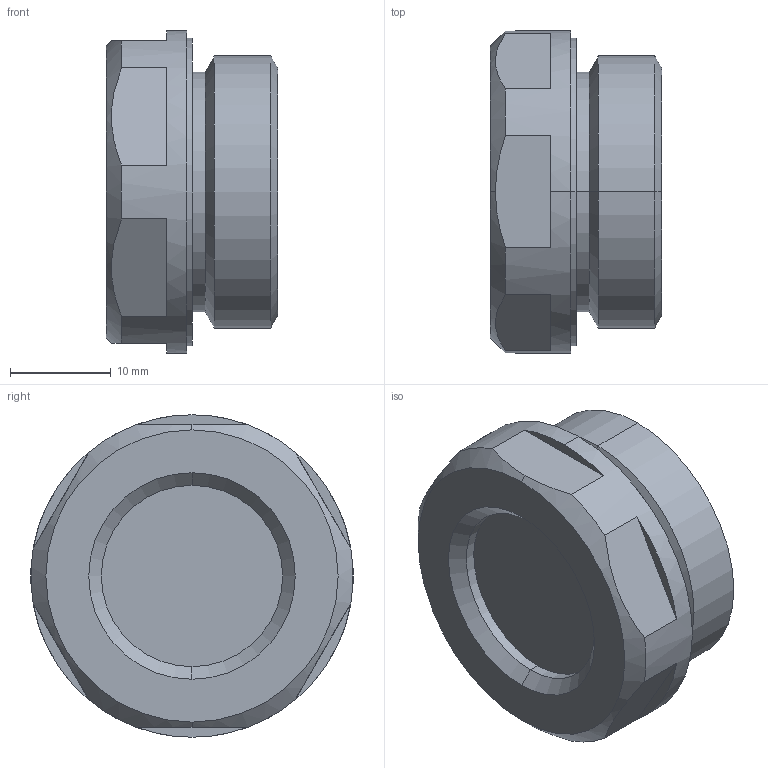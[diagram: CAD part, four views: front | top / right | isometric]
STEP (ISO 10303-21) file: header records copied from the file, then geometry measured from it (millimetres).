
FILE_DESCRIPTION (( 'STEP AP214' ), '1' );
FILE_NAME ('743.4-18-M27x1,5-B.step', '2025-04-10T12:06:34', ( '' ), ( '' ), 'SwSTEP 2.0', 'SolidWorks 2022', '' );
FILE_SCHEMA (( 'AUTOMOTIVE_DESIGN' ));
Length unit declared in the file: millimetre
Products named in the file (1): 743.4-18-M27x1,5-B
Bounding box: 17 x 32 x 32 mm (x, y, z)
Volume: 6719.3 mm3; surface area: 5014.6 mm2
Topology: 1 solids, 5 shells, 77 faces, 183 edges, 116 vertices
Faces by surface type: plane 25, cylinder 23, torus 11, cone 10, bspline 8
Entity records: 2649 total; most frequent: CARTESIAN_POINT 583, DIRECTION 416, ORIENTED_EDGE 366, EDGE_CURVE 183, AXIS2_PLACEMENT_3D 181, VERTEX_POINT 116, CIRCLE 111, EDGE_LOOP 87
